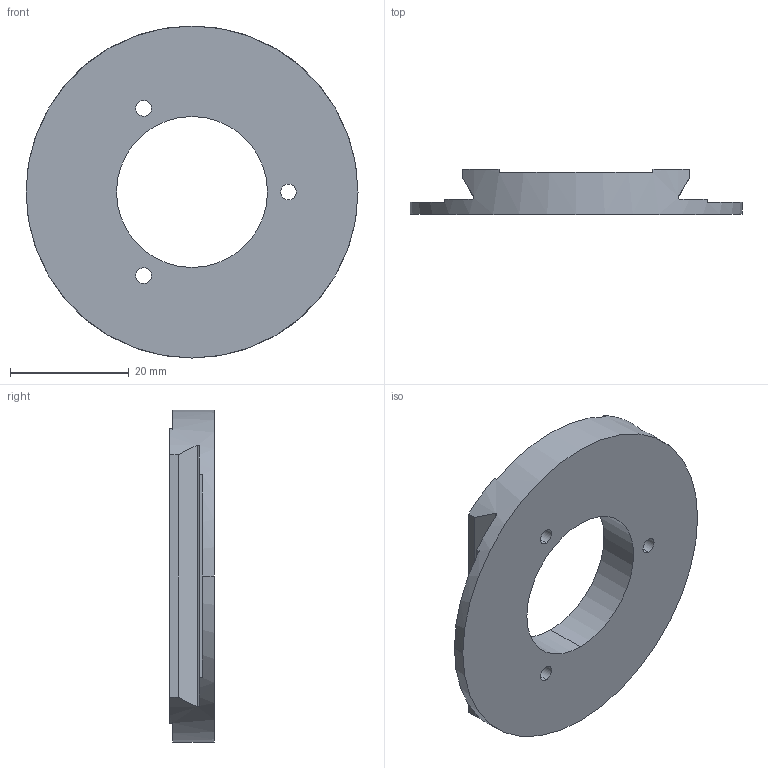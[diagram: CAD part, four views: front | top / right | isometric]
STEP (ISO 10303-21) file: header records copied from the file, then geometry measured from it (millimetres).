
FILE_DESCRIPTION (( 'STEP AP214' ), '1' );
FILE_NAME ('FLX-BXY-AI-DVM (FLX-XY-2205) (CATALOG MODEL).STEP', '2026-08-04T21:20:05', ( '' ), ( '' ), 'SwSTEP 2.0', 'SolidWorks 2025', '' );
FILE_SCHEMA (( 'AUTOMOTIVE_DESIGN' ));
Length unit declared in the file: inch
Products named in the file (1): FLX-BXY-AI-DVM (FLX-XY-2205) (CATALOG MODEL)
Bounding box: 55.88 x 7.52 x 55.88 mm (x, y, z)
Volume: 11069.5 mm3; surface area: 6055.6 mm2
Topology: 1 solids, 1 shells, 43 faces, 120 edges, 78 vertices
Faces by surface type: cylinder 19, plane 18, cone 6
Entity records: 1506 total; most frequent: CARTESIAN_POINT 359, ORIENTED_EDGE 240, DIRECTION 232, EDGE_CURVE 120, AXIS2_PLACEMENT_3D 87, VERTEX_POINT 78, LINE 58, VECTOR 58
